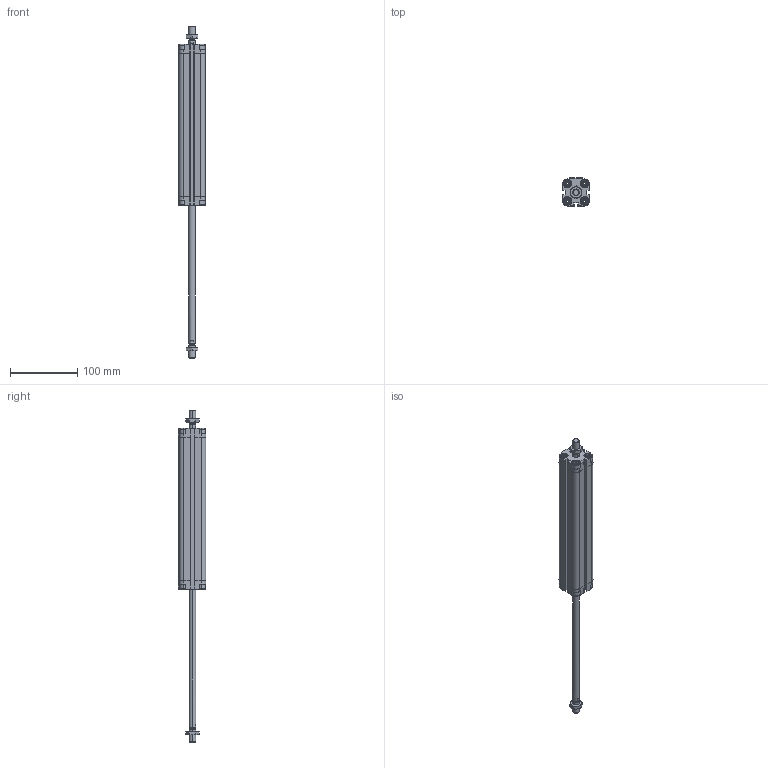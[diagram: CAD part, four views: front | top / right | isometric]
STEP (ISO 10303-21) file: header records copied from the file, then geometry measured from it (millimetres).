
FILE_DESCRIPTION (( 'STEP AP203' ), '1' );
FILE_NAME ('CDVU25-200M-P.STEP', '2020-07-21T15:13:54', ( '' ), ( '' ), 'SwSTEP 2.0', 'SolidWorks 2019', '' );
FILE_SCHEMA (( 'CONFIG_CONTROL_DESIGN' ));
Length unit declared in the file: millimetre
Products named in the file (1): CDVU25-200M-P
Bounding box: 40 x 41.5 x 494.5 mm (x, y, z)
Volume: 249521.1 mm3; surface area: 109443 mm2
Topology: 4 solids, 4 shells, 632 faces, 1650 edges, 1062 vertices
Faces by surface type: plane 372, cylinder 180, cone 64, torus 16
Entity records: 20069 total; most frequent: CARTESIAN_POINT 4485, ORIENTED_EDGE 3292, DIRECTION 3152, EDGE_CURVE 1646, AXIS2_PLACEMENT_3D 1089, VERTEX_POINT 1062, LINE 974, VECTOR 974
